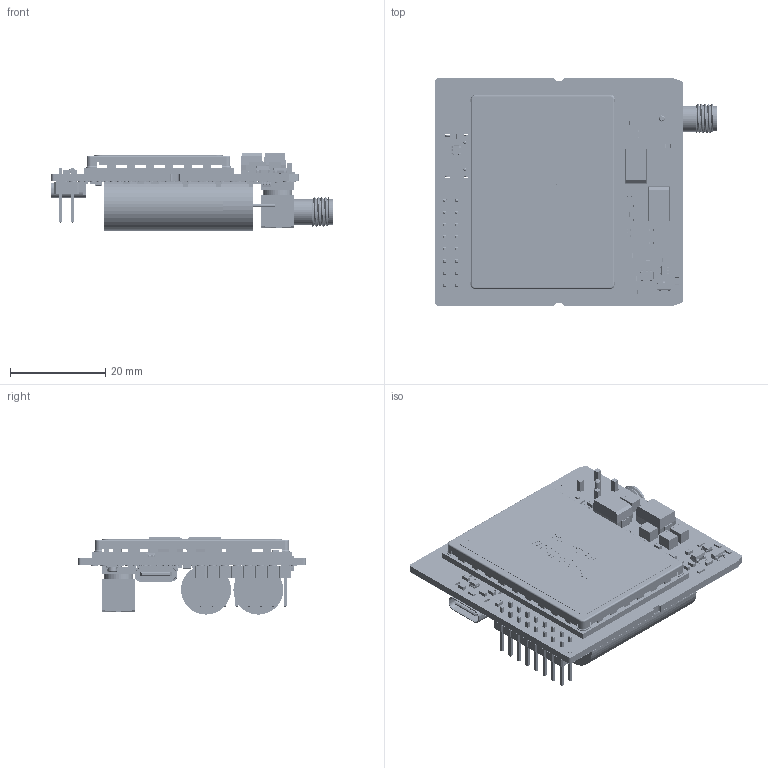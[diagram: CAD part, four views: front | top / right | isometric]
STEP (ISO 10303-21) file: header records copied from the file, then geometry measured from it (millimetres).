
FILE_DESCRIPTION(('KiCad electronic assembly'),'2;1');
FILE_NAME('cad_RockBLOCK 9704-2A.step','2025-04-23T09:04:25',('Pcbnew'), ('Kicad'),'Open CASCADE STEP processor 7.8','KiCad to STEP converter', 'Unknown');
FILE_SCHEMA(('AUTOMOTIVE_DESIGN { 1 0 10303 214 1 1 1 1 }'));
Length unit declared in the file: millimetre
Products named in the file (53): cad_RockBLOCK 9704-2A 1; C_1210_3225Metric; SOT-23-5; L_0603_1608Metric; C_0603_1608Metric; D_SOD-882D; C_0402_1005Metric; R_0603_1608Metric; CP_EIA-7343-43_Kemet-X; SOT-353_SC-70-5; IRDM_9704; P5042-SK-041; SOLID; COMPOUND; P5042-SA-001_ASM; P5042-DP-011; P5042-DP-029; P5042-AW-005; SOT-23; LED_0603_1608Metric; D_SOD-882; PinHeader_2x08_P2.54mm_Vertical; RFPC-SMA27-F_1.0; cad_RockBLOCK 9704-2A 1.50.1; Fuse_1206_3216Metric; USB_C_Receptacle_GCT_USB4105-xx-A_16P_TopMnt_Horizontal; L_1206_3216Metric; TPS62932DRL TI; FRAME-DRL0008A; BODY-SOT; CAP_BCAP0010-P300-X11_MXW; WSON-6-1EP_2x2mm_P0.65mm_EP1x1.6mm; U.FL-R-SMT-1; TSOP-6_1.65x3.05mm_P0.95mm; SOT-363_SC-70-6; WSON-8-1EP_2x2mm_P0.5mm_EP0.9x1.6mm; rockBLOCK-9704_pad; rockBLOCK-9704_silkscreen; rockBLOCK-9704_soldermask; rockBLOCK-9704_PCB
Assembly tree (119 placements, depth 5):
  cad_RockBLOCK 9704-2A 1
    C_1210_3225Metric  x4
    SOT-23-5  x2
    L_0603_1608Metric  x2
    C_0603_1608Metric  x24
    D_SOD-882D
    C_0402_1005Metric  x4
    R_0603_1608Metric  x31
    CP_EIA-7343-43_Kemet-X  x2
    SOT-353_SC-70-5  x2
    IRDM_9704
      P5042-SK-041
        SOLID
        COMPOUND
      P5042-SA-001_ASM
        P5042-DP-011
          SOLID
          COMPOUND
        P5042-DP-029
          SOLID
          COMPOUND
        COMPOUND
      P5042-AW-005
    SOT-23
    LED_0603_1608Metric  x3
    D_SOD-882  x2
    PinHeader_2x08_P2.54mm_Vertical
    RFPC-SMA27-F_1.0
      cad_RockBLOCK 9704-2A 1.50.1
    Fuse_1206_3216Metric
    USB_C_Receptacle_GCT_USB4105-xx-A_16P_TopMnt_Horizontal
    L_1206_3216Metric
    TPS62932DRL TI
      FRAME-DRL0008A
        SOLID
        SOLID
        SOLID
        SOLID
        SOLID
        SOLID
        SOLID
        SOLID
      BODY-SOT
    CAP_BCAP0010-P300-X11_MXW  x2
    WSON-6-1EP_2x2mm_P0.65mm_EP1x1.6mm
    U.FL-R-SMT-1
    TSOP-6_1.65x3.05mm_P0.95mm
    SOT-363_SC-70-6
    WSON-8-1EP_2x2mm_P0.5mm_EP0.9x1.6mm
    rockBLOCK-9704_pad
    rockBLOCK-9704_silkscreen
    rockBLOCK-9704_soldermask
    rockBLOCK-9704_PCB
Bounding box: 59.27 x 47.8 x 16.24 mm (x, y, z)
Volume: 12777.6 mm3; surface area: 26339 mm2
Topology: 584 solids, 1209 shells, 9753 faces, 49687 edges, 56285 vertices
Faces by surface type: plane 6814, cylinder 2416, bspline 230, extrusion 225, cone 36, torus 20, sphere 8, revolution 4
Full cylindrical faces by diameter (mm): 0.1 x1, 0.25 x16, 0.5 x3, 0.6 x7, 0.65 x2, 0.66 x4, 0.95 x48, 1 x40, 1.45 x3, 1.5 x6, 1.65 x12, 1.7 x39, 1.86 x1, 2 x2, 2.5 x8, 10.49 x2
Entity records: 868743 total; most frequent: CARTESIAN_POINT 201948, DIRECTION 108918, VECTOR 75137, LINE 74912, ORIENTED_EDGE 47216, PCURVE 47216, DEFINITIONAL_REPRESENTATION 47216, EDGE_CURVE 30218
